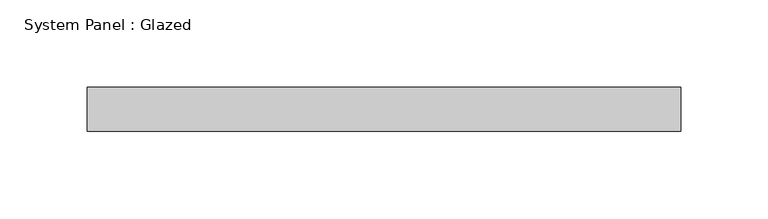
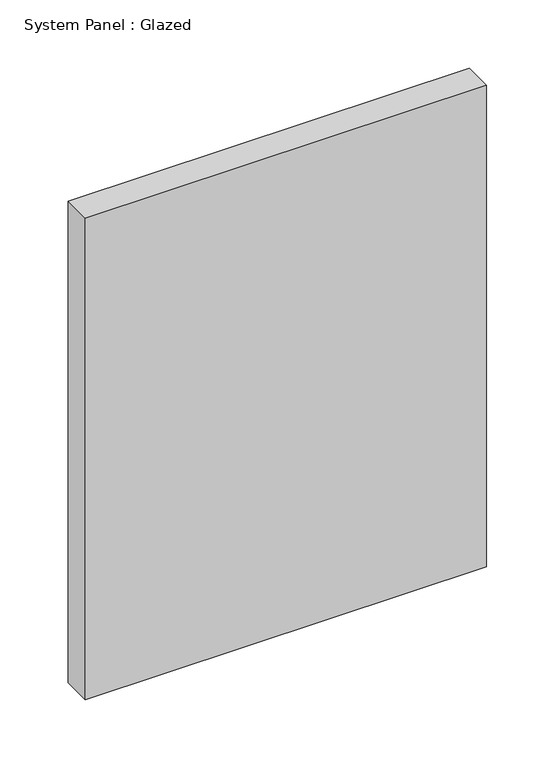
"""IFC4 building model written with IfcOpenShell, lengths in millimetres: plate geometry, System Panel : Glazed."""

from ifc_helpers import new_model, si_unit, origin, origin_with_axes, place, context, project, spatial, polyline, outline, extrude, source, transform, mapped, element, save


def system_panel_glazed_5e6f1a99(model_context):
    return source(origin(), model_context, "Body", "SweptSolid", [
        extrude(outline(polyline([(170.2561998, -44.45), (-170.2561998, -44.45), (-170.2561998, -19.05), (170.2561998, -19.05), (170.2561998, -44.45)])), origin_with_axes(), (0.0, 0.0, 1.0), 431.8),
    ])


if __name__ == "__main__":
    model = new_model("IFC4")
    model_context = context("Model", 3, world=origin())
    ifc_project = project(units=[si_unit("LENGTHUNIT", "METRE", prefix="MILLI")], contexts=[model_context])
    site = spatial("IfcSite", under=ifc_project)
    building = spatial("IfcBuilding", under=site)
    placement = place(None, origin())
    system_panel_glazed_shape = system_panel_glazed_5e6f1a99(model_context)
    element("IfcPlate", 1, ObjectType="System Panel : Glazed", at=placement, inside=building, context=model_context, shape_type="MappedRepresentation", body=[
        mapped(system_panel_glazed_shape, transform((0.0, 0.0, 0.0), x_axis=(1.0, 0.0, 0.0), y_axis=(0.0, 1.0, 0.0), z_axis=(0.0, 0.0, 1.0))),
    ])
    save(model, "model.ifc")
